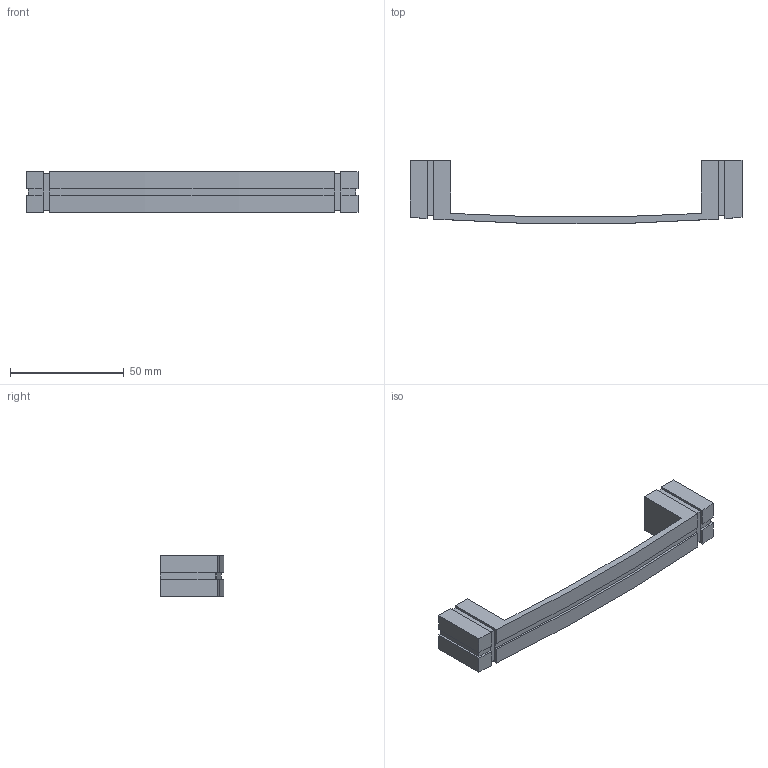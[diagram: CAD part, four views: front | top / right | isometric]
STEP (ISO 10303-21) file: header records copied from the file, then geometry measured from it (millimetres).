
FILE_DESCRIPTION( ( '' ), '1' );
FILE_NAME( 'C:/Documents and Settings/Sachin/Desktop/Sheet 10_1/stp/115266.stp', '2013-10-22T11:11:49', ( '' ), ( '' ), ' ', ' ', ' ' );
FILE_SCHEMA( ( 'CONFIG_CONTROL_DESIGN' ) );
Length unit declared in the file: millimetre
Products named in the file (1): 1
Bounding box: 146 x 27.76 x 18 mm (x, y, z)
Volume: 21264.5 mm3; surface area: 10356.6 mm2
Topology: 1 solids, 1 shells, 52 faces, 144 edges, 96 vertices
Faces by surface type: plane 38, cylinder 14
Entity records: 1700 total; most frequent: CARTESIAN_POINT 293, ORIENTED_EDGE 288, DIRECTION 278, EDGE_CURVE 144, LINE 116, VECTOR 116, VERTEX_POINT 96, AXIS2_PLACEMENT_3D 81
